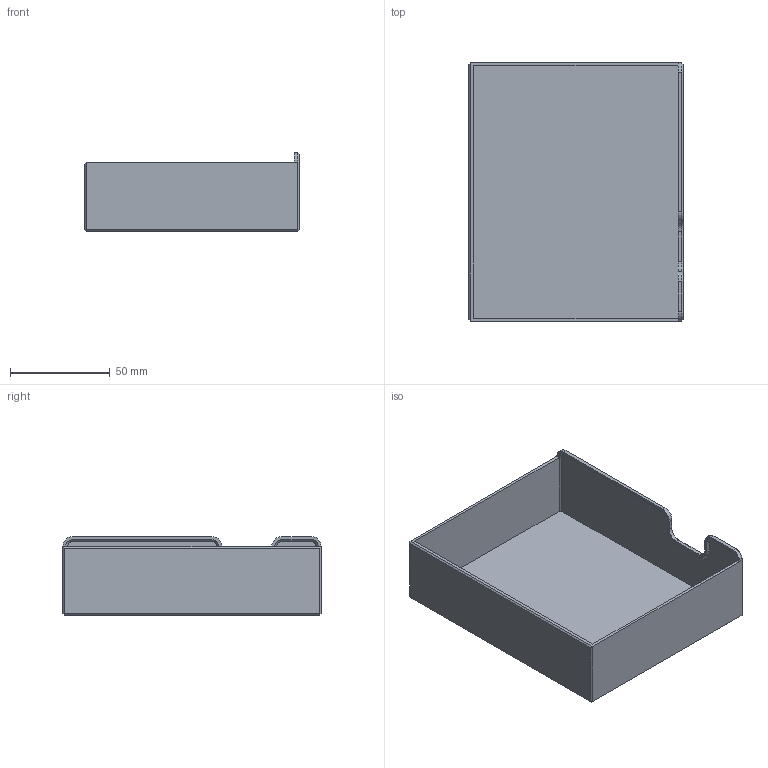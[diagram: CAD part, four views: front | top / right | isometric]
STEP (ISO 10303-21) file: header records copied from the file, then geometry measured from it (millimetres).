
FILE_DESCRIPTION(/* description */ (''),/* implementation_level */ '2;1');
FILE_NAME(/* name */ 'CupBoard v1-drawer3.step',/* time_stamp */ '2024-06-04T19:46:08+02:00',/* author */ (''),/* organization */ (''),/* preprocessor_version */ 'ST-DEVELOPER v20',/* originating_system */ 'Autodesk Translation Framework v13.14.0.145',/* authorisation */ '');
FILE_SCHEMA (('AUTOMOTIVE_DESIGN { 1 0 10303 214 3 1 1 }'));
Length unit declared in the file: millimetre
Products named in the file (2): CupBoard; Component1
Assembly tree (1 placements, depth 2):
  CupBoard
    Component1
Bounding box: 107.5 x 129.5 x 39.5 mm (x, y, z)
Volume: 44815.2 mm3; surface area: 59925.5 mm2
Topology: 1 solids, 1 shells, 65 faces, 158 edges, 95 vertices
Faces by surface type: plane 47, cone 12, cylinder 6
Entity records: 1920 total; most frequent: DIRECTION 323, CARTESIAN_POINT 323, ORIENTED_EDGE 316, EDGE_CURVE 158, LINE 127, VECTOR 127, AXIS2_PLACEMENT_3D 98, VERTEX_POINT 95
